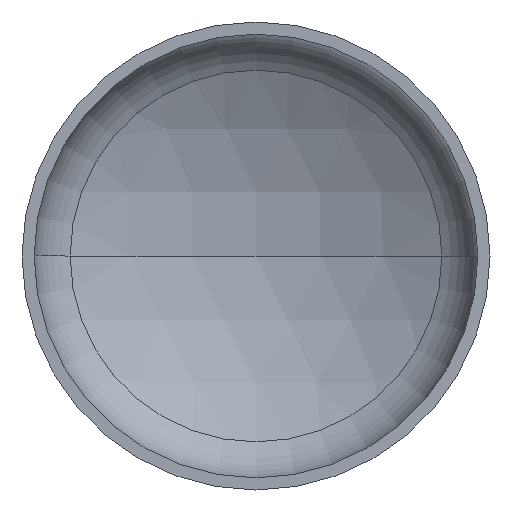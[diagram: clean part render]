
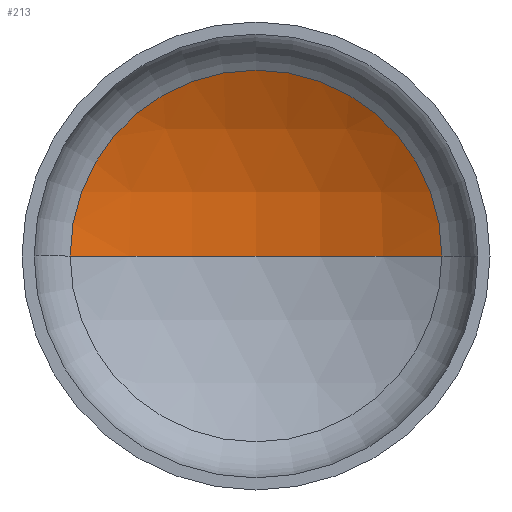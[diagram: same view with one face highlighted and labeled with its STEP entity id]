
A CAD part, front view. The second image highlights one B-rep face of the part: STEP entity #213.
In plain terms, the highlighted spherical face has radius 1360 mm.
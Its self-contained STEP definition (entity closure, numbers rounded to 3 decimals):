
#7 = ORIENTED_EDGE ( 'NONE', *, *, #347, .T. ) ;
#9 = EDGE_LOOP ( 'NONE', ( #64, #7, #161 ) ) ;
#16 = DIRECTION ( 'NONE',  ( 0., 0., -1. ) ) ;
#17 = AXIS2_PLACEMENT_3D ( 'NONE', #379, #283, #218 ) ;
#18 = AXIS2_PLACEMENT_3D ( 'NONE', #174, #309, #168 ) ;
#19 = AXIS2_PLACEMENT_3D ( 'NONE', #288, #247, #401 ) ;
#55 = AXIS2_PLACEMENT_3D ( 'NONE', #329, #16, #357 ) ;
#64 = ORIENTED_EDGE ( 'NONE', *, *, #350, .F. ) ;
#102 = FACE_OUTER_BOUND ( 'NONE', #9, .T. ) ;
#105 = VERTEX_POINT ( 'NONE', #206 ) ;
#111 = VERTEX_POINT ( 'NONE', #301 ) ;
#161 = ORIENTED_EDGE ( 'NONE', *, *, #346, .T. ) ;
#165 = CIRCLE ( 'NONE', #19, 675.055 ) ;
#168 = DIRECTION ( 'NONE',  ( -1., 0., 0. ) ) ;
#174 = CARTESIAN_POINT ( 'NONE',  ( 0., -814.926, 0. ) ) ;
#193 = SPHERICAL_SURFACE ( 'NONE', #55, 1360. ) ;
#206 = CARTESIAN_POINT ( 'NONE',  ( -675.055, 365.71, 0. ) ) ;
#213 = ADVANCED_FACE ( 'NONE', ( #102 ), #193, .F. ) ;
#218 = DIRECTION ( 'NONE',  ( 1., 0., 0. ) ) ;
#247 = DIRECTION ( 'NONE',  ( 0., -1., 0. ) ) ;
#283 = DIRECTION ( 'NONE',  ( 0., 0., 1. ) ) ;
#288 = CARTESIAN_POINT ( 'NONE',  ( 0., 365.71, 0. ) ) ;
#301 = CARTESIAN_POINT ( 'NONE',  ( 675.055, 365.71, 0. ) ) ;
#309 = DIRECTION ( 'NONE',  ( 0., 0., -1. ) ) ;
#329 = CARTESIAN_POINT ( 'NONE',  ( 0., -814.926, 0. ) ) ;
#345 = CIRCLE ( 'NONE', #17, 1360. ) ;
#346 = EDGE_CURVE ( 'NONE', #111, #105, #165, .T. ) ;
#347 = EDGE_CURVE ( 'NONE', #410, #111, #409, .T. ) ;
#350 = EDGE_CURVE ( 'NONE', #410, #105, #345, .T. ) ;
#357 = DIRECTION ( 'NONE',  ( -1., 0., 0. ) ) ;
#379 = CARTESIAN_POINT ( 'NONE',  ( 0., -814.926, 0. ) ) ;
#386 = CARTESIAN_POINT ( 'NONE',  ( 0., 545.074, 0. ) ) ;
#401 = DIRECTION ( 'NONE',  ( 1., 0., 0. ) ) ;
#409 = CIRCLE ( 'NONE', #18, 1360. ) ;
#410 = VERTEX_POINT ( 'NONE', #386 ) ;
